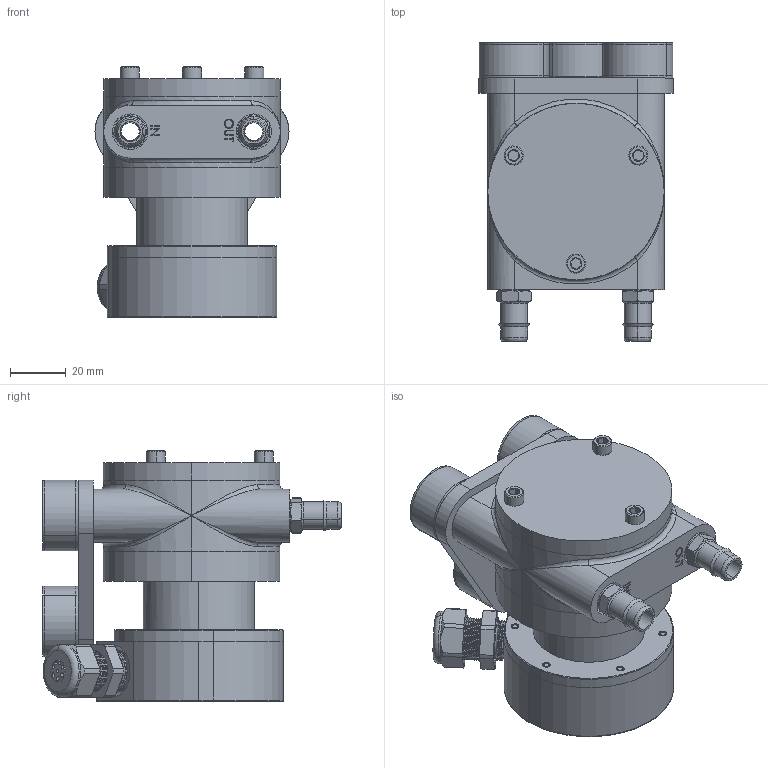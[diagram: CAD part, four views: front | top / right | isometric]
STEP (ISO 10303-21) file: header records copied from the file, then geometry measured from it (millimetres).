
FILE_DESCRIPTION (( 'STEP AP203' ), '1' );
FILE_NAME ('UM-28200A Envelop2.STEP', '2018-07-10T15:13:55', ( '' ), ( '' ), 'SwSTEP 2.0', 'SolidWorks 2016', '' );
FILE_SCHEMA (( 'CONFIG_CONTROL_DESIGN' ));
Length unit declared in the file: inch
Products named in the file (2): UM-28200A Envelop2
Bounding box: 69.85 x 107.41 x 89.95 mm (x, y, z)
Surface area: 64435.2 mm2 (no closed solid volume)
Topology: 0 solids, 31 shells, 684 faces, 1832 edges, 1178 vertices
Faces by surface type: cylinder 346, cone 173, plane 123, bspline 32, torus 10
Entity records: 35625 total; most frequent: CARTESIAN_POINT 20145, ORIENTED_EDGE 3156, DIRECTION 3050, EDGE_CURVE 1824, AXIS2_PLACEMENT_3D 1182, VERTEX_POINT 1178, EDGE_LOOP 750, LINE 686
